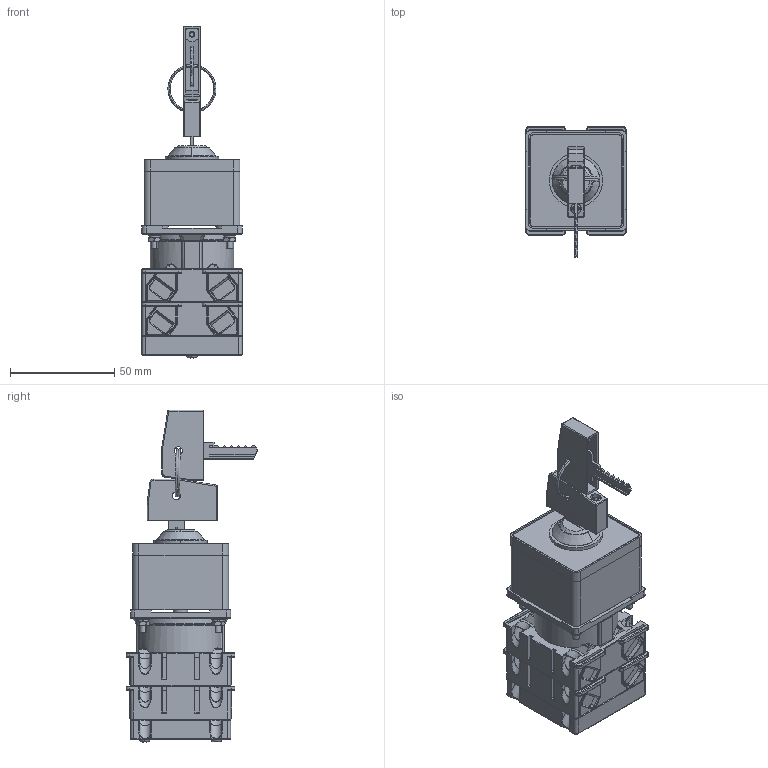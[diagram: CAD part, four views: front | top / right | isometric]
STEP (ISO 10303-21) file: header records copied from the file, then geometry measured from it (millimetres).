
FILE_DESCRIPTION (( 'STEP AP214' ), '1' );
FILE_NAME ('Ïåðåêëþ÷àòåëü 4G16,25-XXXX-U-S5 2ê.STEP', '2022-11-30T10:28:42', ( '' ), ( '' ), 'SwSTEP 2.0', 'SolidWorks 2018', '' );
FILE_SCHEMA (( 'AUTOMOTIVE_DESIGN' ));
Length unit declared in the file: millimetre
Products named in the file (1): Ïåðåêëþ÷àòåëü 4G16,25-XXXX-U-S5 2ê
Bounding box: 48 x 62.94 x 159.15 mm (x, y, z)
Volume: 189021 mm3; surface area: 86371.5 mm2
Topology: 43 solids, 59 shells, 3832 faces, 9936 edges, 6249 vertices
Faces by surface type: plane 1992, cylinder 1281, torus 234, cone 148, bspline 102, sphere 75
Entity records: 196932 total; most frequent: CARTESIAN_POINT 62652, ORIENTED_EDGE 19744, DIRECTION 18512, EDGE_CURVE 9872, VERTEX_POINT 6237, VECTOR 6198, LINE 6198, AXIS2_PLACEMENT_3D 6157
